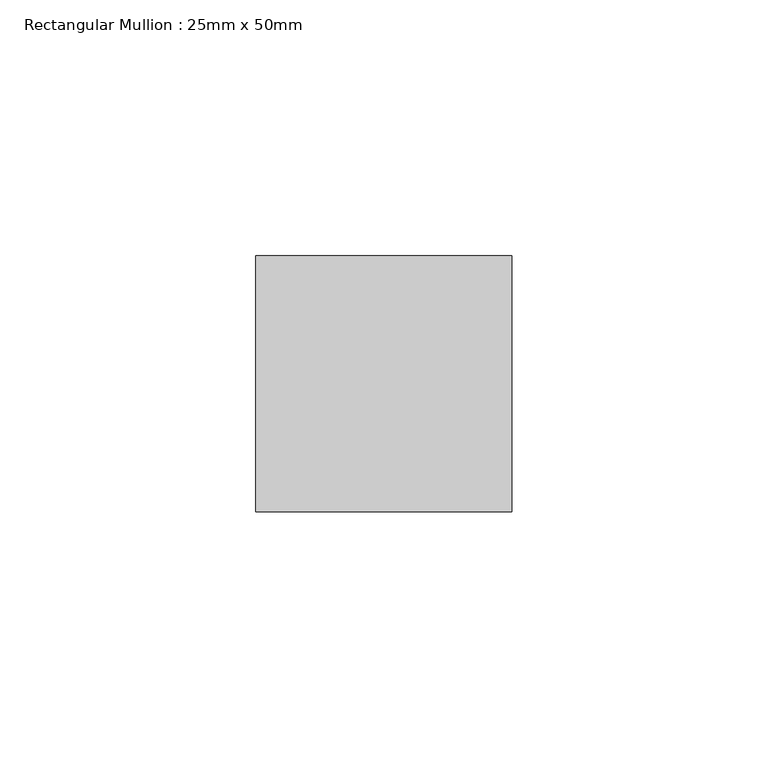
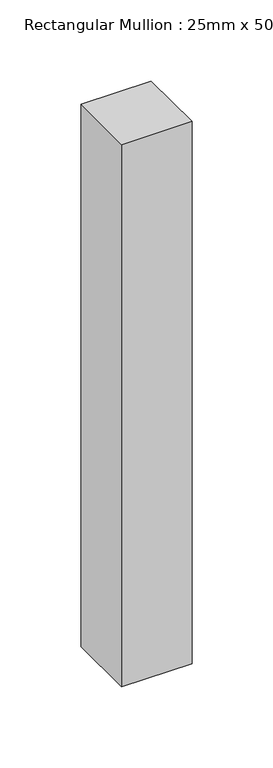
"""IFC4 building model written with IfcOpenShell, lengths in millimetres: member geometry, Rectangular Mullion : 25mm x 50mm."""

from ifc_helpers import new_model, si_unit, frame, origin, place, context, project, spatial, polyline, outline, extrude, source, transform, mapped, element, save


def rectangular_mullion_25mm_x_50mm_156d20dd(model_context):
    return source(origin(), model_context, "Body", "SweptSolid", [
        extrude(outline(polyline([(25.0, 25.0), (25.0, -25.0), (-25.0, -25.0), (-25.0, 25.0), (25.0, 25.0)])), frame((0.0, 0.0, -407.7658765), z_axis=(0.0, 0.0, 1.0), x_axis=(1.0, 0.0, 0.0)), (0.0, 0.0, 1.0), 407.7658765),
    ])


if __name__ == "__main__":
    model = new_model("IFC4")
    model_context = context("Model", 3, world=origin())
    ifc_project = project(units=[si_unit("LENGTHUNIT", "METRE", prefix="MILLI")], contexts=[model_context])
    site = spatial("IfcSite", under=ifc_project)
    building = spatial("IfcBuilding", under=site)
    placement = place(None, origin())
    rectangular_mullion_25mm_x_50mm_shape = rectangular_mullion_25mm_x_50mm_156d20dd(model_context)
    element("IfcMember", 1, ObjectType="Rectangular Mullion : 25mm x 50mm", at=placement, inside=building, context=model_context, shape_type="MappedRepresentation", body=[
        mapped(rectangular_mullion_25mm_x_50mm_shape, transform((0.0, 0.0, 0.0), x_axis=(1.0, 0.0, 0.0), y_axis=(0.0, 1.0, 0.0), z_axis=(0.0, 0.0, 1.0))),
    ])
    save(model, "model.ifc")
